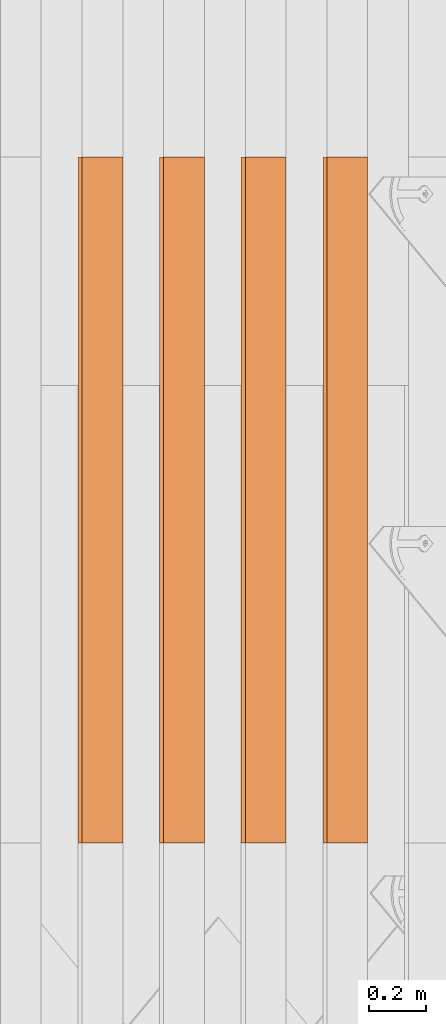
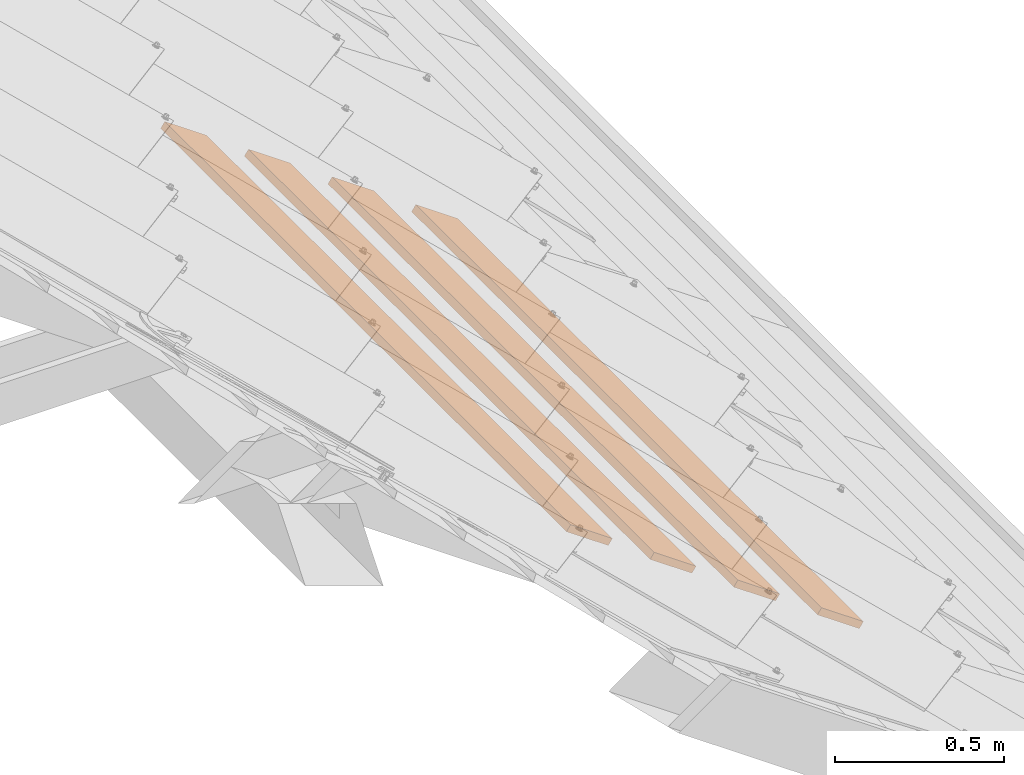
# One storey, part 36 of 151: 4 proxies, 1 element without a shape of its own.
"""IFC2X3 building model written with IfcOpenShell, lengths in millimetres."""

from ifc_helpers import new_model, entity, si_unit, converted_unit, derived_unit, direction, frame, frame_2d, origin, place, context, subcontext, project, spatial, rectangle, extrude, source, transform, mapped, material, type_object, type_shapes, element, aggregate, save


model = new_model("IFC2X3")

# Units and contexts
model_context = context("Model", 3, precision=0.01, world=origin(), true_north=direction((6.12303176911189e-17, 1.0)))
body_context = subcontext(model_context, "Body", "Model", "MODEL_VIEW")
ifc_project = project(units=[si_unit("LENGTHUNIT", "METRE", prefix="MILLI"), si_unit("AREAUNIT", "SQUARE_METRE"), si_unit("VOLUMEUNIT", "CUBIC_METRE"), converted_unit("PLANEANGLEUNIT", "DEGREE", entity("IfcRatioMeasure", 0.0174532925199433), si_unit("PLANEANGLEUNIT", "RADIAN"), dimensions=[0, 0, 0, 0, 0, 0, 0]), si_unit("MASSUNIT", "GRAM", prefix="KILO"), derived_unit("MASSDENSITYUNIT", [(si_unit("MASSUNIT", "GRAM", prefix="KILO"), 1), (si_unit("LENGTHUNIT", "METRE"), -3)]), si_unit("TIMEUNIT", "SECOND"), si_unit("FREQUENCYUNIT", "HERTZ"), si_unit("THERMODYNAMICTEMPERATUREUNIT", "DEGREE_CELSIUS"), derived_unit("THERMALTRANSMITTANCEUNIT", [(si_unit("MASSUNIT", "GRAM", prefix="KILO"), 1), (si_unit("THERMODYNAMICTEMPERATUREUNIT", "KELVIN"), -1), (si_unit("TIMEUNIT", "SECOND"), -3)]), derived_unit("VOLUMETRICFLOWRATEUNIT", [(si_unit("LENGTHUNIT", "METRE"), 3), (si_unit("TIMEUNIT", "SECOND"), -1)]), si_unit("ELECTRICCURRENTUNIT", "AMPERE"), si_unit("ELECTRICVOLTAGEUNIT", "VOLT"), si_unit("POWERUNIT", "WATT"), si_unit("FORCEUNIT", "NEWTON", prefix="KILO"), si_unit("ILLUMINANCEUNIT", "LUX"), si_unit("LUMINOUSFLUXUNIT", "LUMEN"), si_unit("LUMINOUSINTENSITYUNIT", "CANDELA"), derived_unit("USERDEFINED", [(si_unit("MASSUNIT", "GRAM", prefix="KILO"), -1), (si_unit("LENGTHUNIT", "METRE"), -2), (si_unit("TIMEUNIT", "SECOND"), 3), (si_unit("LUMINOUSFLUXUNIT", "LUMEN"), 1)]), derived_unit("LINEARVELOCITYUNIT", [(si_unit("LENGTHUNIT", "METRE"), 1), (si_unit("TIMEUNIT", "SECOND"), -1)]), si_unit("PRESSUREUNIT", "PASCAL"), derived_unit("USERDEFINED", [(si_unit("LENGTHUNIT", "METRE"), -2), (si_unit("MASSUNIT", "GRAM", prefix="KILO"), 1), (si_unit("TIMEUNIT", "SECOND"), -2)])], contexts=[model_context])

# Site, building, storey
site_placement = place(None, origin())
site = spatial("IfcSite", under=ifc_project, at=site_placement, Name="Default", CompositionType="ELEMENT")
building_placement = place(site_placement, origin())
building = spatial("IfcBuilding", under=site, at=building_placement, CompositionType="ELEMENT")
storey_placement = place(building_placement, origin())
storey = spatial("IfcBuildingStorey", under=building, at=storey_placement, Name="Level 1", CompositionType="ELEMENT", Elevation=0.0)

# Assembly, proxies
assembly_placement = place(storey_placement, origin())
assembly = element("IfcElementAssembly", 1, at=assembly_placement, inside=storey, Name="Structural Framing Assembly:Roof Construction Assembly", ObjectType="Structural Framing Assembly:Roof Construction Assembly", AssemblyPlace="NOTDEFINED", PredefinedType="USERDEFINED")
ifc_material = material(Name="Wood - Generic - Wood For Showcase")
building_element_proxy_type_1 = type_object("IfcBuildingElementProxyType", Name="Structural Framing 15", PredefinedType="NOTDEFINED", material=ifc_material)
shared_shape_1 = source(origin(), body_context, "Body", "SweptSolid", [
    extrude(rectangle(XDim=24.9999999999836, YDim=174.344679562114, at=frame_2d((2.97539770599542e-13, -4.2632564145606e-14), x_axis=(1.0, 0.0))), frame((1285.35601305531, 1525.55080214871, 2760.23940055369), z_axis=(0.0, 1.0, 0.0), x_axis=(0.573576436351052, 0.0, 0.819152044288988)), (0.0, 0.0, 1.0), 2400.0),
])
type_shapes(building_element_proxy_type_1, [shared_shape_1])
proxy_1_placement = place(assembly_placement, frame((1771.26547920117, -7270.0, -1200.0)))
proxy_1 = element("IfcBuildingElementProxy", 2, at=proxy_1_placement, type_object=building_element_proxy_type_1, material=ifc_material, Name="Structural Framing 218:Structural Framing 15", ObjectType="Structural Framing 218:Structural Framing 15", context=body_context, shape_type="MappedRepresentation", body=[
    mapped(shared_shape_1, transform((0.0, 0.0, 0.0), scale=1.0)),
])
building_element_proxy_type_2 = type_object("IfcBuildingElementProxyType", Name="Structural Framing 15", PredefinedType="NOTDEFINED", material=ifc_material)
shared_shape_2 = source(origin(), body_context, "Body", "SweptSolid", [
    extrude(rectangle(XDim=24.9999999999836, YDim=174.344679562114, at=frame_2d((2.97539770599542e-13, -4.2632564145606e-14), x_axis=(1.0, 0.0))), frame((1285.35601305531, 1525.55080214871, 2760.23940055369), z_axis=(0.0, 1.0, 0.0), x_axis=(0.573576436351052, 0.0, 0.819152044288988)), (0.0, 0.0, 1.0), 2400.0),
])
type_shapes(building_element_proxy_type_2, [shared_shape_2])
proxy_2_placement = place(assembly_placement, frame((2056.89508054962, -7270.0, -1400.0)))
proxy_2 = element("IfcBuildingElementProxy", 3, at=proxy_2_placement, type_object=building_element_proxy_type_2, material=ifc_material, Name="Structural Framing 228:Structural Framing 15", ObjectType="Structural Framing 228:Structural Framing 15", context=body_context, shape_type="MappedRepresentation", body=[
    mapped(shared_shape_2, transform((0.0, 0.0, 0.0), scale=1.0)),
])
building_element_proxy_type_3 = type_object("IfcBuildingElementProxyType", Name="Structural Framing 15", PredefinedType="NOTDEFINED", material=ifc_material)
shared_shape_3 = source(origin(), body_context, "Body", "SweptSolid", [
    extrude(rectangle(XDim=24.9999999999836, YDim=174.344679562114, at=frame_2d((2.97539770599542e-13, -4.2632564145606e-14), x_axis=(1.0, 0.0))), frame((1285.35601305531, 1525.55080214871, 2760.23940055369), z_axis=(0.0, 1.0, 0.0), x_axis=(0.573576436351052, 0.0, 0.819152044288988)), (0.0, 0.0, 1.0), 2400.0),
])
type_shapes(building_element_proxy_type_3, [shared_shape_3])
proxy_3_placement = place(assembly_placement, frame((2342.52468189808, -7270.0, -1600.0)))
proxy_3 = element("IfcBuildingElementProxy", 4, at=proxy_3_placement, type_object=building_element_proxy_type_3, material=ifc_material, Name="Structural Framing 238:Structural Framing 15", ObjectType="Structural Framing 238:Structural Framing 15", context=body_context, shape_type="MappedRepresentation", body=[
    mapped(shared_shape_3, transform((0.0, 0.0, 0.0), scale=1.0)),
])
building_element_proxy_type_4 = type_object("IfcBuildingElementProxyType", Name="Structural Framing 15", PredefinedType="NOTDEFINED", material=ifc_material)
shared_shape_4 = source(origin(), body_context, "Body", "SweptSolid", [
    extrude(rectangle(XDim=24.9999999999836, YDim=174.344679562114, at=frame_2d((2.97539770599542e-13, -4.2632564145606e-14), x_axis=(1.0, 0.0))), frame((1285.35601305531, 1525.55080214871, 2760.23940055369), z_axis=(0.0, 1.0, 0.0), x_axis=(0.573576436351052, 0.0, 0.819152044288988)), (0.0, 0.0, 1.0), 2400.0),
])
type_shapes(building_element_proxy_type_4, [shared_shape_4])
proxy_4_placement = place(assembly_placement, frame((2628.15428324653, -7270.0, -1800.0)))
proxy_4 = element("IfcBuildingElementProxy", 5, at=proxy_4_placement, type_object=building_element_proxy_type_4, material=ifc_material, Name="Structural Framing 248:Structural Framing 15", ObjectType="Structural Framing 248:Structural Framing 15", context=body_context, shape_type="MappedRepresentation", body=[
    mapped(shared_shape_4, transform((0.0, 0.0, 0.0), scale=1.0)),
])
aggregate(assembly, [proxy_1, proxy_2, proxy_3, proxy_4])

save(model, "model.ifc")
